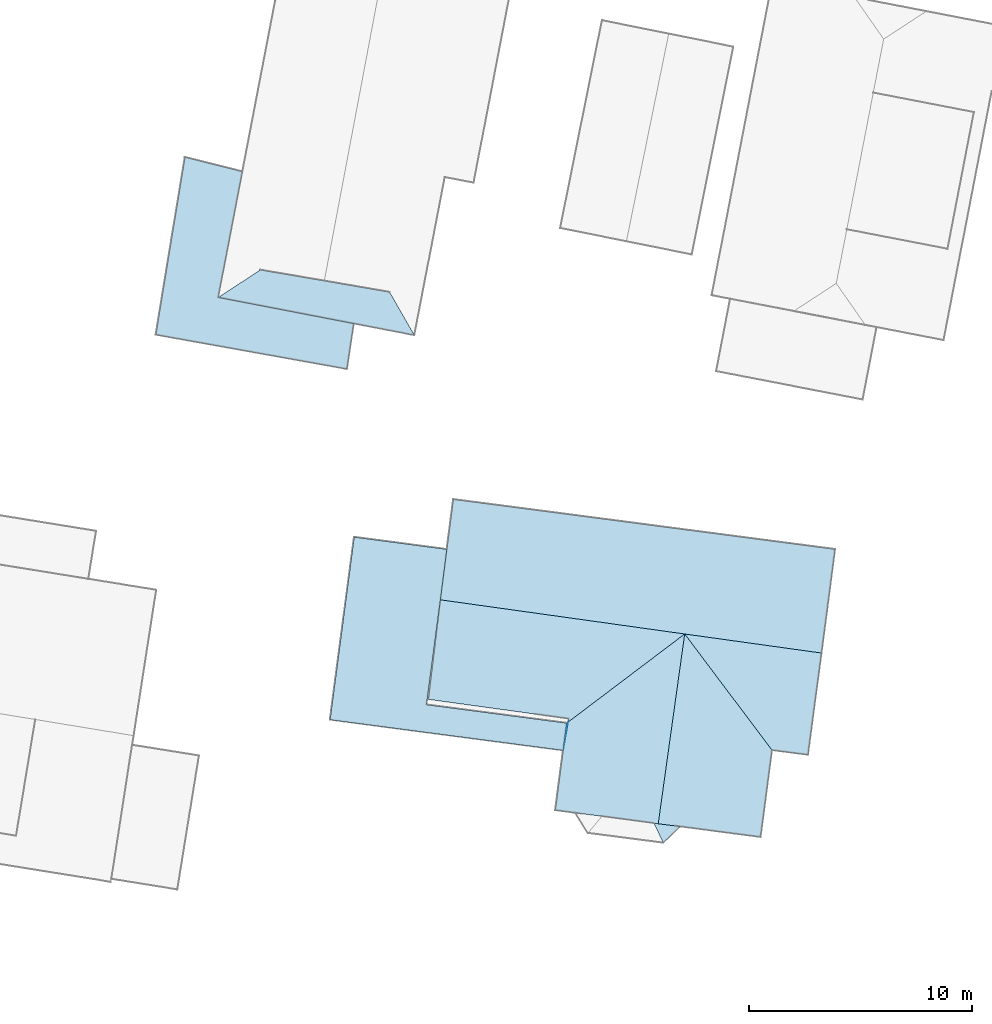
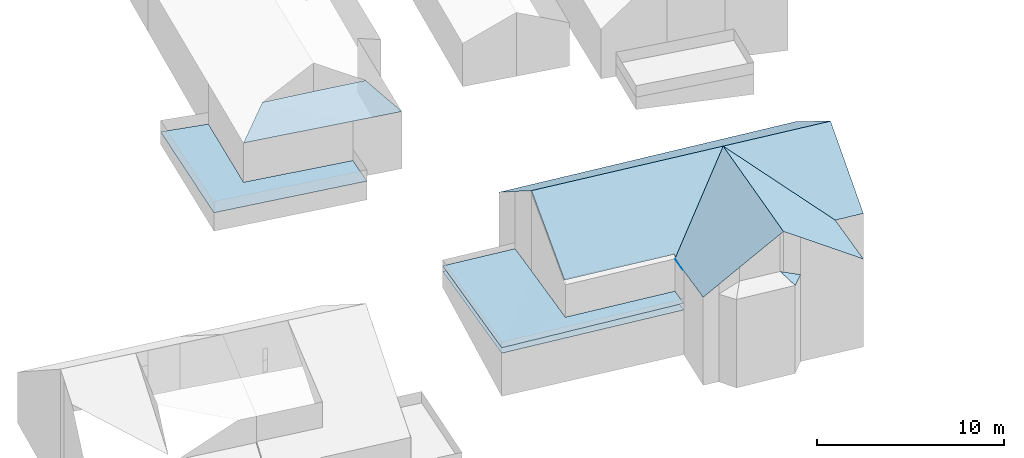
# Not in any storey, part 55 of 57: 22 roofs.
"""IFC2X3 building model written with IfcOpenShell, lengths in metres."""

from ifc_helpers import new_model, entity, si_unit, converted_unit, frame, origin, place, context, subcontext, project, spatial, face_set, surface_model, element, save


model = new_model("IFC2X3")

# Units and contexts
model_context = context("Model", 3, precision=1e-05, world=origin())
body_context = subcontext(model_context, "Body", "Model", "MODEL_VIEW")
ifc_project = project(units=[converted_unit("PLANEANGLEUNIT", "DEGREE", entity("IfcRatioMeasure", 0.0174532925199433), si_unit("PLANEANGLEUNIT", "RADIAN"), dimensions=[0, 0, 0, 0, 0, 0, 0]), si_unit("AREAUNIT", "SQUARE_METRE"), si_unit("LENGTHUNIT", "METRE")], contexts=[model_context])

# Site, building
site_placement = place(None, origin())
site = spatial("IfcSite", under=ifc_project, at=site_placement, Name="_site", CompositionType="ELEMENT")
building_1_placement = place(site_placement, origin())
building_1 = spatial("IfcBuilding", under=site, at=building_1_placement, Name="_building", CompositionType="ELEMENT")

# Roofs
roof_1_placement = place(building_1_placement, origin())
element("IfcRoof", 1, at=roof_1_placement, inside=building_1, Name="Roof", ShapeType="NOTDEFINED", context=body_context, shape_type="SurfaceModel", body=[
    surface_model("IfcFaceBasedSurfaceModel", [(233.55, 89.753, 110.25), (233.709, 90.98, 110.24), (227.414, 91.808, 110.24), (228.039, 96.515, 110.193), (228.328, 98.781, 110.17), (224.168, 99.329, 110.17), (223.086, 91.129, 110.17)], [face_set([[[0, 1, 2, 3, 4, 5, 6]]])]),
])
roof_2_placement = place(building_1_placement, origin())
element("IfcRoof", 2, at=roof_2_placement, inside=building_1, Name="Roof", ShapeType="NOTDEFINED", context=body_context, shape_type="SurfaceModel", body=[
    surface_model("IfcFaceBasedSurfaceModel", [(233.709, 90.98, 112.35), (233.768, 91.024, 112.384), (233.55, 89.753, 112.36)], [face_set([[[0, 1, 2]]])]),
])
roof_3_placement = place(building_1_placement, origin())
element("IfcRoof", 3, at=roof_3_placement, inside=building_1, Name="Roof", ShapeType="NOTDEFINED", context=body_context, shape_type="SurfaceModel", body=[
    surface_model("IfcFaceBasedSurfaceModel", [(233.55, 89.753, 110.25), (233.709, 90.98, 110.24), (227.414, 91.808, 110.24), (228.039, 96.515, 110.193), (228.328, 98.781, 110.17), (224.168, 99.329, 110.17), (223.086, 91.129, 110.17)], [face_set([[[0, 1, 2, 3, 4, 5, 6]]])]),
])
roof_4_placement = place(building_1_placement, origin())
element("IfcRoof", 4, at=roof_4_placement, inside=building_1, Name="Roof", ShapeType="NOTDEFINED", context=body_context, shape_type="SurfaceModel", body=[
    surface_model("IfcFaceBasedSurfaceModel", [(233.709, 90.98, 112.35), (233.768, 91.024, 112.384), (233.55, 89.753, 112.36)], [face_set([[[0, 1, 2]]])]),
])
for number, where, name in (
    (5, (0.0, 0.0, 0.0), "Roof"),
    (6, (0.0, 0.0, 0.0), "Roof"),
):
    element("IfcRoof", number, at=place(building_1_placement, frame(where)), inside=building_1, Name=name, ShapeType="NOTDEFINED", context=body_context, shape_type="SurfaceModel", body=[
        surface_model("IfcFaceBasedSurfaceModel", [(233.55, 89.753, 109.81), (233.709, 90.98, 109.81), (227.414, 91.808, 109.81), (228.039, 96.515, 109.81), (228.328, 98.781, 109.81), (224.168, 99.329, 109.81), (223.086, 91.129, 109.81)], [face_set([[[0, 1, 2, 3, 4, 5, 6]]])]),
    ])

# Building
building_2_placement = place(site_placement, origin())
building_2 = spatial("IfcBuilding", under=site, at=building_2_placement, Name="_building", CompositionType="ELEMENT")

# Roofs
for number, where, name in (
    (7, (0.0, 0.0, 0.0), "Roof"),
    (8, (0.0, 0.0, 0.0), "Roof"),
):
    element("IfcRoof", number, at=place(building_2_placement, frame(where)), inside=building_2, Name=name, ShapeType="NOTDEFINED", context=body_context, shape_type="SurfaceModel", body=[
        surface_model("IfcFaceBasedSurfaceModel", [(218.066, 110.088, 113.82), (224.153, 108.915, 113.82), (226.872, 108.391, 113.82), (225.757, 110.328, 115.07), (222.827, 110.835, 115.07), (219.956, 111.325, 115.07)], [face_set([[[0, 1, 2, 3, 4, 5]]])]),
    ])
for number, where, name in (
    (9, (0.0, 0.0, 0.0), "Roof"),
    (10, (0.0, 0.0, 0.0), "Roof"),
):
    element("IfcRoof", number, at=place(building_2_placement, frame(where)), inside=building_2, Name=name, ShapeType="NOTDEFINED", context=body_context, shape_type="SurfaceModel", body=[
        surface_model("IfcFaceBasedSurfaceModel", [(224.153, 108.915, 111.25), (218.066, 110.088, 111.25), (219.152, 115.735, 111.25), (216.573, 116.387, 111.25), (215.265, 108.413, 111.25), (223.845, 106.871, 111.25)], [face_set([[[0, 1, 2, 3, 4, 5]]])]),
    ])

# Building
building_3_placement = place(site_placement, origin())
building_3 = spatial("IfcBuilding", under=site, at=building_3_placement, Name="_building", CompositionType="ELEMENT")

# Roofs
roof_5_placement = place(building_3_placement, origin())
element("IfcRoof", 11, at=roof_5_placement, inside=building_3, Name="Roof", ShapeType="NOTDEFINED", context=body_context, shape_type="SurfaceModel", body=[
    surface_model("IfcFaceBasedSurfaceModel", [(239.005, 94.981, 115.44), (228.039, 96.515, 115.44), (227.5, 92.046, 112.478), (233.794, 91.179, 112.487), (233.768, 91.024, 112.384)], [face_set([[[0, 1, 2, 3, 4]]])]),
])
roof_6_placement = place(building_3_placement, origin())
element("IfcRoof", 12, at=roof_6_placement, inside=building_3, Name="Roof", ShapeType="NOTDEFINED", context=body_context, shape_type="SurfaceModel", body=[
    surface_model("IfcFaceBasedSurfaceModel", [(242.926, 89.764, 112.39), (244.542, 89.556, 112.39), (245.15, 94.125, 115.44), (239.005, 94.981, 115.44)], [face_set([[[0, 1, 2, 3]]])]),
])
roof_7_placement = place(building_3_placement, origin())
element("IfcRoof", 13, at=roof_7_placement, inside=building_3, Name="Roof", ShapeType="NOTDEFINED", context=body_context, shape_type="SurfaceModel", body=[
    surface_model("IfcFaceBasedSurfaceModel", [(239.005, 94.981, 115.44), (237.816, 86.461, 115.44), (238.803, 86.338, 114.79), (242.415, 85.864, 112.39), (242.926, 89.764, 112.39)], [face_set([[[0, 1, 2, 3, 4]]])]),
])
roof_8_placement = place(building_3_placement, origin())
element("IfcRoof", 14, at=roof_8_placement, inside=building_3, Name="Roof", ShapeType="NOTDEFINED", context=body_context, shape_type="SurfaceModel", body=[
    surface_model("IfcFaceBasedSurfaceModel", [(245.15, 94.125, 115.44), (245.759, 98.783, 112.39), (228.621, 101.025, 112.39), (228.328, 98.781, 113.91), (228.039, 96.515, 115.44), (239.005, 94.981, 115.44)], [face_set([[[0, 1, 2, 3, 4, 5]]])]),
])
roof_9_placement = place(building_3_placement, origin())
element("IfcRoof", 15, at=roof_9_placement, inside=building_3, Name="Roof", ShapeType="NOTDEFINED", context=body_context, shape_type="SurfaceModel", body=[
    surface_model("IfcFaceBasedSurfaceModel", [(238.046, 85.605, 112.35), (238.803, 86.338, 112.35), (237.816, 86.461, 112.794), (237.626, 86.486, 112.88)], [face_set([[[0, 1, 2, 3]]])]),
])
roof_10_placement = place(building_3_placement, origin())
element("IfcRoof", 16, at=roof_10_placement, inside=building_3, Name="Roof", ShapeType="NOTDEFINED", context=body_context, shape_type="SurfaceModel", body=[
    surface_model("IfcFaceBasedSurfaceModel", [(239.005, 94.981, 115.44), (237.816, 86.461, 115.44), (238.803, 86.338, 114.79), (242.415, 85.864, 112.39), (242.926, 89.764, 112.39)], [face_set([[[0, 1, 2, 3, 4]]])]),
])
roof_11_placement = place(building_3_placement, origin())
element("IfcRoof", 17, at=roof_11_placement, inside=building_3, Name="Roof", ShapeType="NOTDEFINED", context=body_context, shape_type="SurfaceModel", body=[
    surface_model("IfcFaceBasedSurfaceModel", [(239.005, 94.981, 115.44), (233.768, 91.024, 112.384), (233.55, 89.753, 112.36), (233.197, 87.07, 112.39), (234.095, 86.949, 112.98), (235.292, 86.801, 113.77), (237.626, 86.486, 115.314), (237.816, 86.461, 115.44)], [face_set([[[0, 1, 2, 3, 4, 5, 6, 7]]])]),
])
roof_12_placement = place(building_3_placement, origin())
element("IfcRoof", 18, at=roof_12_placement, inside=building_3, Name="Roof", ShapeType="NOTDEFINED", context=body_context, shape_type="SurfaceModel", body=[
    surface_model("IfcFaceBasedSurfaceModel", [(238.046, 85.605, 112.35), (238.803, 86.338, 112.35), (237.816, 86.461, 112.794), (237.626, 86.486, 112.88)], [face_set([[[0, 1, 2, 3]]])]),
])
roof_13_placement = place(building_3_placement, origin())
element("IfcRoof", 19, at=roof_13_placement, inside=building_3, Name="Roof", ShapeType="NOTDEFINED", context=body_context, shape_type="SurfaceModel", body=[
    surface_model("IfcFaceBasedSurfaceModel", [(245.15, 94.125, 115.44), (245.759, 98.783, 112.39), (228.621, 101.025, 112.39), (228.328, 98.781, 113.91), (228.039, 96.515, 115.44), (239.005, 94.981, 115.44)], [face_set([[[0, 1, 2, 3, 4, 5]]])]),
])
roof_14_placement = place(building_3_placement, origin())
element("IfcRoof", 20, at=roof_14_placement, inside=building_3, Name="Roof", ShapeType="NOTDEFINED", context=body_context, shape_type="SurfaceModel", body=[
    surface_model("IfcFaceBasedSurfaceModel", [(239.005, 94.981, 115.44), (228.039, 96.515, 115.44), (227.5, 92.046, 112.478), (233.794, 91.179, 112.487), (233.768, 91.024, 112.384)], [face_set([[[0, 1, 2, 3, 4]]])]),
])
roof_15_placement = place(building_3_placement, origin())
element("IfcRoof", 21, at=roof_15_placement, inside=building_3, Name="Roof", ShapeType="NOTDEFINED", context=body_context, shape_type="SurfaceModel", body=[
    surface_model("IfcFaceBasedSurfaceModel", [(242.926, 89.764, 112.39), (244.542, 89.556, 112.39), (245.15, 94.125, 115.44), (239.005, 94.981, 115.44)], [face_set([[[0, 1, 2, 3]]])]),
])
roof_16_placement = place(building_3_placement, origin())
element("IfcRoof", 22, at=roof_16_placement, inside=building_3, Name="Roof", ShapeType="NOTDEFINED", context=body_context, shape_type="SurfaceModel", body=[
    surface_model("IfcFaceBasedSurfaceModel", [(239.005, 94.981, 115.44), (233.768, 91.024, 112.384), (233.55, 89.753, 112.36), (233.197, 87.07, 112.39), (234.095, 86.949, 112.98), (235.292, 86.801, 113.77), (237.626, 86.486, 115.314), (237.816, 86.461, 115.44)], [face_set([[[0, 1, 2, 3, 4, 5, 6, 7]]])]),
])

save(model, "model.ifc")
